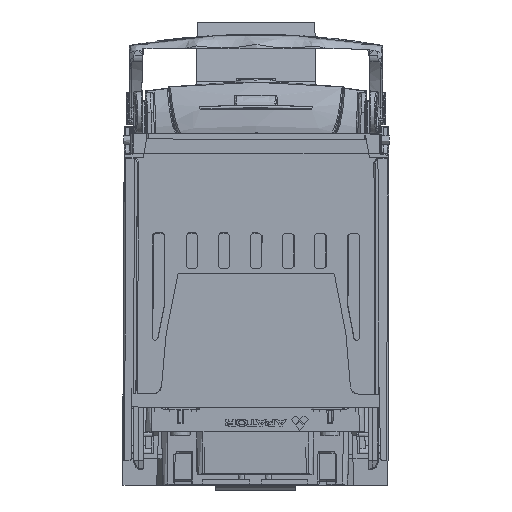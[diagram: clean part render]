
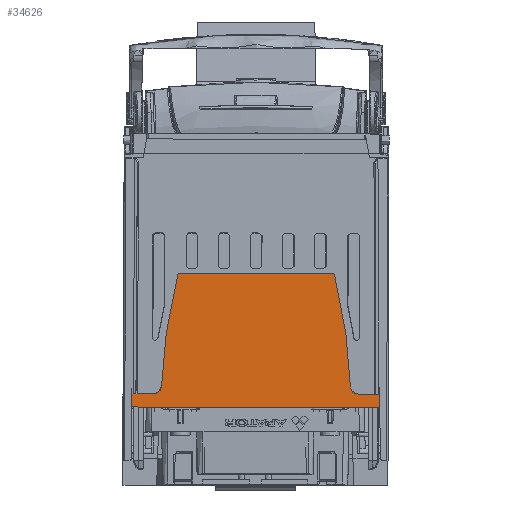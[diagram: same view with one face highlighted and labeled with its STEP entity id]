
A CAD part, left-side view. The second image highlights one B-rep face of the part: STEP entity #34626.
In plain terms, the highlighted planar face has unit normal (-1, 0, 0).
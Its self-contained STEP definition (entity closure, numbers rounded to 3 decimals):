
#20968=CIRCLE('',#217042,3.);
#20969=CIRCLE('',#217044,3.);
#20970=CIRCLE('',#217047,0.5);
#20971=CIRCLE('',#217049,0.5);
#34626=ADVANCED_FACE('',(#50953),#45270,.F.);
#45270=PLANE('',#218192);
#50953=FACE_OUTER_BOUND('',#63020,.T.);
#63020=EDGE_LOOP('',(#85195,#85196,#85197,#85198,#85199,#85200,#85201,#85202,
#85203,#85204,#85205,#85206,#85207,#85208));
#85195=ORIENTED_EDGE('',*,*,#159610,.T.);
#85196=ORIENTED_EDGE('',*,*,#159621,.F.);
#85197=ORIENTED_EDGE('',*,*,#159612,.T.);
#85198=ORIENTED_EDGE('',*,*,#159620,.F.);
#85199=ORIENTED_EDGE('',*,*,#159615,.T.);
#85200=ORIENTED_EDGE('',*,*,#159619,.F.);
#85201=ORIENTED_EDGE('',*,*,#159622,.T.);
#85202=ORIENTED_EDGE('',*,*,#159605,.F.);
#85203=ORIENTED_EDGE('',*,*,#159623,.T.);
#85204=ORIENTED_EDGE('',*,*,#159524,.T.);
#85205=ORIENTED_EDGE('',*,*,#156403,.F.);
#85206=ORIENTED_EDGE('',*,*,#159634,.F.);
#85207=ORIENTED_EDGE('',*,*,#159692,.T.);
#85208=ORIENTED_EDGE('',*,*,#159608,.F.);
#136915=VERTEX_POINT('',#276783);
#136916=VERTEX_POINT('',#276785);
#139334=VERTEX_POINT('',#292055);
#139359=VERTEX_POINT('',#293214);
#139360=VERTEX_POINT('',#293216);
#139361=VERTEX_POINT('',#293220);
#139362=VERTEX_POINT('',#293222);
#139363=VERTEX_POINT('',#293226);
#139364=VERTEX_POINT('',#293230);
#139365=VERTEX_POINT('',#293231);
#139366=VERTEX_POINT('',#293236);
#139367=VERTEX_POINT('',#293237);
#139368=VERTEX_POINT('',#293242);
#139371=VERTEX_POINT('',#293327);
#156403=EDGE_CURVE('',#136915,#136916,#187405,.T.);
#159524=EDGE_CURVE('',#139334,#136916,#188819,.T.);
#159605=EDGE_CURVE('',#139359,#139360,#20968,.T.);
#159608=EDGE_CURVE('',#139361,#139362,#20969,.T.);
#159610=EDGE_CURVE('',#139361,#139363,#188875,.T.);
#159612=EDGE_CURVE('',#139364,#139365,#20970,.T.);
#159615=EDGE_CURVE('',#139366,#139367,#20971,.T.);
#159619=EDGE_CURVE('',#139368,#139367,#188882,.T.);
#159620=EDGE_CURVE('',#139366,#139365,#188883,.T.);
#159621=EDGE_CURVE('',#139364,#139363,#188884,.T.);
#159622=EDGE_CURVE('',#139368,#139360,#188885,.T.);
#159623=EDGE_CURVE('',#139359,#139334,#188886,.T.);
#159634=EDGE_CURVE('',#139371,#136915,#188894,.T.);
#159692=EDGE_CURVE('',#139371,#139362,#188929,.T.);
#187405=LINE('',#276784,#201801);
#188819=LINE('',#292054,#203215);
#188875=LINE('',#293225,#203271);
#188882=LINE('',#293243,#203278);
#188883=LINE('',#293245,#203279);
#188884=LINE('',#293247,#203280);
#188885=LINE('',#293249,#203281);
#188886=LINE('',#293251,#203282);
#188894=LINE('',#293328,#203290);
#188929=LINE('',#294465,#203325);
#201801=VECTOR('',#230681,1.);
#203215=VECTOR('',#235109,1.);
#203271=VECTOR('',#235263,1.);
#203278=VECTOR('',#235280,1.);
#203279=VECTOR('',#235283,1.);
#203280=VECTOR('',#235286,1.);
#203281=VECTOR('',#235289,1.);
#203282=VECTOR('',#235292,1.);
#203290=VECTOR('',#235312,1.);
#203325=VECTOR('',#235433,1.);
#217042=AXIS2_PLACEMENT_3D('',#293215,#235252,#235253);
#217044=AXIS2_PLACEMENT_3D('',#293221,#235258,#235259);
#217047=AXIS2_PLACEMENT_3D('',#293229,#235267,#235268);
#217049=AXIS2_PLACEMENT_3D('',#293235,#235273,#235274);
#218192=AXIS2_PLACEMENT_3D('',#308024,#238745,#238746);
#230681=DIRECTION('',(0.,1.,0.002));
#235109=DIRECTION('',(0.,0.006,-1.));
#235252=DIRECTION('',(-1.,0.,0.));
#235253=DIRECTION('',(0.,1.,0.002));
#235258=DIRECTION('',(-1.,0.,0.));
#235259=DIRECTION('',(0.,1.,0.002));
#235263=DIRECTION('',(0.,0.085,0.996));
#235267=DIRECTION('',(-1.,0.,0.));
#235268=DIRECTION('',(0.,1.,0.002));
#235273=DIRECTION('',(-1.,0.,0.));
#235274=DIRECTION('',(0.,1.,0.002));
#235280=DIRECTION('',(0.,-0.193,0.981));
#235283=DIRECTION('',(0.,-1.,-0.002));
#235286=DIRECTION('',(0.,-0.189,-0.982));
#235289=DIRECTION('',(0.,0.089,-0.996));
#235292=DIRECTION('',(0.,1.,0.002));
#235312=DIRECTION('',(0.,-0.003,-1.));
#235433=DIRECTION('',(0.,1.,0.002));
#238745=DIRECTION('',(1.,0.,0.));
#238746=DIRECTION('',(0.,-1.,-0.002));
#276783=CARTESIAN_POINT('',(-277.559,-46.679,29.156));
#276784=CARTESIAN_POINT('',(-277.56,-0.254,29.237));
#276785=CARTESIAN_POINT('',(-277.561,46.161,29.318));
#292054=CARTESIAN_POINT('',(-277.561,45.58,124.343));
#292055=CARTESIAN_POINT('',(-277.561,46.131,34.218));
#293214=CARTESIAN_POINT('',(-277.561,38.075,34.204));
#293215=CARTESIAN_POINT('',(-277.561,38.07,37.204));
#293216=CARTESIAN_POINT('',(-277.561,35.082,36.937));
#293220=CARTESIAN_POINT('',(-277.559,-35.616,36.814));
#293221=CARTESIAN_POINT('',(-277.559,-38.605,37.07));
#293222=CARTESIAN_POINT('',(-277.559,-38.6,34.07));
#293225=CARTESIAN_POINT('',(-277.559,-35.833,34.288));
#293226=CARTESIAN_POINT('',(-277.559,-33.912,56.688));
#293229=CARTESIAN_POINT('',(-277.56,-29.163,78.706));
#293230=CARTESIAN_POINT('',(-277.56,-29.654,78.801));
#293231=CARTESIAN_POINT('',(-277.56,-29.164,79.206));
#293235=CARTESIAN_POINT('',(-277.561,28.483,78.807));
#293236=CARTESIAN_POINT('',(-277.561,28.482,79.307));
#293237=CARTESIAN_POINT('',(-277.561,28.973,78.903));
#293242=CARTESIAN_POINT('',(-277.561,33.309,56.805));
#293243=CARTESIAN_POINT('',(-277.561,33.309,56.805));
#293245=CARTESIAN_POINT('',(-277.56,-0.341,79.257));
#293247=CARTESIAN_POINT('',(-277.559,-33.912,56.688));
#293249=CARTESIAN_POINT('',(-277.561,35.307,34.412));
#293251=CARTESIAN_POINT('',(-277.561,45.738,34.217));
#293327=CARTESIAN_POINT('',(-277.559,-46.666,34.056));
#293328=CARTESIAN_POINT('',(-277.559,-46.424,126.591));
#294465=CARTESIAN_POINT('',(-277.559,-46.262,34.057));
#308024=CARTESIAN_POINT('',(-277.56,-0.254,29.237));
